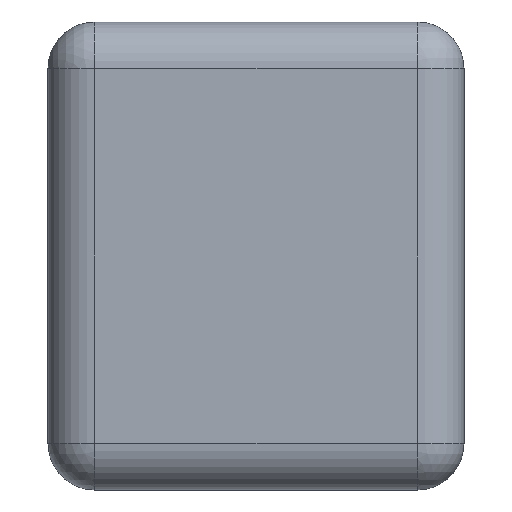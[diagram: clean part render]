
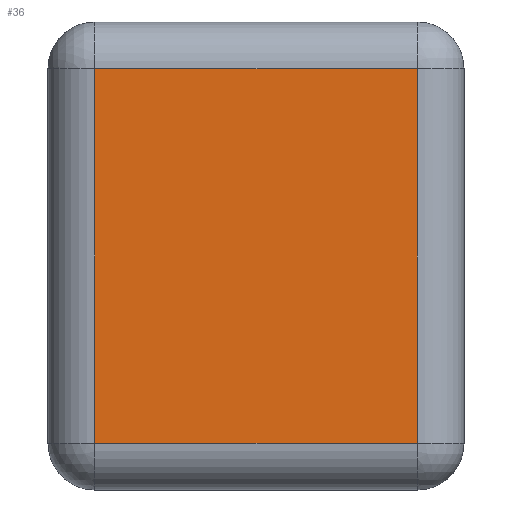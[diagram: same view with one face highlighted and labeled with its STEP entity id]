
A CAD part, left-side view. The second image highlights one B-rep face of the part: STEP entity #36.
In plain terms, the highlighted planar face has unit normal (-1, 0, 0).
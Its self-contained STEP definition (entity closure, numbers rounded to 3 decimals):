
#36 = ADVANCED_FACE('',(#37),#51,.F.);
#37 = FACE_BOUND('',#38,.F.);
#38 = EDGE_LOOP('',(#39,#74,#102,#130));
#39 = ORIENTED_EDGE('',*,*,#40,.F.);
#40 = EDGE_CURVE('',#41,#43,#45,.T.);
#41 = VERTEX_POINT('',#42);
#42 = CARTESIAN_POINT('',(-1.65,-0.62,0.18));
#43 = VERTEX_POINT('',#44);
#44 = CARTESIAN_POINT('',(-1.65,-0.62,1.62));
#45 = SURFACE_CURVE('',#46,(#50,#62),.PCURVE_S1.);
#46 = LINE('',#47,#48);
#47 = CARTESIAN_POINT('',(-1.65,-0.62,0.));
#48 = VECTOR('',#49,1.);
#49 = DIRECTION('',(0.,0.,1.));
#50 = PCURVE('',#51,#56);
#51 = PLANE('',#52);
#52 = AXIS2_PLACEMENT_3D('',#53,#54,#55);
#53 = CARTESIAN_POINT('',(-1.65,-0.8,0.));
#54 = DIRECTION('',(1.,0.,0.));
#55 = DIRECTION('',(0.,0.,1.));
#56 = DEFINITIONAL_REPRESENTATION('',(#57),#61);
#57 = LINE('',#58,#59);
#58 = CARTESIAN_POINT('',(0.,-0.18));
#59 = VECTOR('',#60,1.);
#60 = DIRECTION('',(1.,0.));
#61 = ( GEOMETRIC_REPRESENTATION_CONTEXT(2) 
PARAMETRIC_REPRESENTATION_CONTEXT() REPRESENTATION_CONTEXT('2D SPACE',''
  ) );
#62 = PCURVE('',#63,#68);
#63 = CYLINDRICAL_SURFACE('',#64,0.18);
#64 = AXIS2_PLACEMENT_3D('',#65,#66,#67);
#65 = CARTESIAN_POINT('',(-1.47,-0.62,0.));
#66 = DIRECTION('',(0.,0.,1.));
#67 = DIRECTION('',(-1.,-0.,0.));
#68 = DEFINITIONAL_REPRESENTATION('',(#69),#73);
#69 = LINE('',#70,#71);
#70 = CARTESIAN_POINT('',(0.,0.));
#71 = VECTOR('',#72,1.);
#72 = DIRECTION('',(0.,1.));
#73 = ( GEOMETRIC_REPRESENTATION_CONTEXT(2) 
PARAMETRIC_REPRESENTATION_CONTEXT() REPRESENTATION_CONTEXT('2D SPACE',''
  ) );
#74 = ORIENTED_EDGE('',*,*,#75,.T.);
#75 = EDGE_CURVE('',#41,#76,#78,.T.);
#76 = VERTEX_POINT('',#77);
#77 = CARTESIAN_POINT('',(-1.65,0.62,0.18));
#78 = SURFACE_CURVE('',#79,(#83,#90),.PCURVE_S1.);
#79 = LINE('',#80,#81);
#80 = CARTESIAN_POINT('',(-1.65,-0.8,0.18));
#81 = VECTOR('',#82,1.);
#82 = DIRECTION('',(0.,1.,0.));
#83 = PCURVE('',#51,#84);
#84 = DEFINITIONAL_REPRESENTATION('',(#85),#89);
#85 = LINE('',#86,#87);
#86 = CARTESIAN_POINT('',(0.18,0.));
#87 = VECTOR('',#88,1.);
#88 = DIRECTION('',(0.,-1.));
#89 = ( GEOMETRIC_REPRESENTATION_CONTEXT(2) 
PARAMETRIC_REPRESENTATION_CONTEXT() REPRESENTATION_CONTEXT('2D SPACE',''
  ) );
#90 = PCURVE('',#91,#96);
#91 = CYLINDRICAL_SURFACE('',#92,0.18);
#92 = AXIS2_PLACEMENT_3D('',#93,#94,#95);
#93 = CARTESIAN_POINT('',(-1.47,-0.8,0.18));
#94 = DIRECTION('',(0.,1.,0.));
#95 = DIRECTION('',(-1.,0.,0.));
#96 = DEFINITIONAL_REPRESENTATION('',(#97),#101);
#97 = LINE('',#98,#99);
#98 = CARTESIAN_POINT('',(-0.,0.));
#99 = VECTOR('',#100,1.);
#100 = DIRECTION('',(-0.,1.));
#101 = ( GEOMETRIC_REPRESENTATION_CONTEXT(2) 
PARAMETRIC_REPRESENTATION_CONTEXT() REPRESENTATION_CONTEXT('2D SPACE',''
  ) );
#102 = ORIENTED_EDGE('',*,*,#103,.T.);
#103 = EDGE_CURVE('',#76,#104,#106,.T.);
#104 = VERTEX_POINT('',#105);
#105 = CARTESIAN_POINT('',(-1.65,0.62,1.62));
#106 = SURFACE_CURVE('',#107,(#111,#118),.PCURVE_S1.);
#107 = LINE('',#108,#109);
#108 = CARTESIAN_POINT('',(-1.65,0.62,0.));
#109 = VECTOR('',#110,1.);
#110 = DIRECTION('',(0.,0.,1.));
#111 = PCURVE('',#51,#112);
#112 = DEFINITIONAL_REPRESENTATION('',(#113),#117);
#113 = LINE('',#114,#115);
#114 = CARTESIAN_POINT('',(0.,-1.42));
#115 = VECTOR('',#116,1.);
#116 = DIRECTION('',(1.,0.));
#117 = ( GEOMETRIC_REPRESENTATION_CONTEXT(2) 
PARAMETRIC_REPRESENTATION_CONTEXT() REPRESENTATION_CONTEXT('2D SPACE',''
  ) );
#118 = PCURVE('',#119,#124);
#119 = CYLINDRICAL_SURFACE('',#120,0.18);
#120 = AXIS2_PLACEMENT_3D('',#121,#122,#123);
#121 = CARTESIAN_POINT('',(-1.47,0.62,0.));
#122 = DIRECTION('',(0.,0.,1.));
#123 = DIRECTION('',(-1.,-0.,0.));
#124 = DEFINITIONAL_REPRESENTATION('',(#125),#129);
#125 = LINE('',#126,#127);
#126 = CARTESIAN_POINT('',(-0.,0.));
#127 = VECTOR('',#128,1.);
#128 = DIRECTION('',(-0.,1.));
#129 = ( GEOMETRIC_REPRESENTATION_CONTEXT(2) 
PARAMETRIC_REPRESENTATION_CONTEXT() REPRESENTATION_CONTEXT('2D SPACE',''
  ) );
#130 = ORIENTED_EDGE('',*,*,#131,.F.);
#131 = EDGE_CURVE('',#43,#104,#132,.T.);
#132 = SURFACE_CURVE('',#133,(#137,#144),.PCURVE_S1.);
#133 = LINE('',#134,#135);
#134 = CARTESIAN_POINT('',(-1.65,-0.8,1.62));
#135 = VECTOR('',#136,1.);
#136 = DIRECTION('',(0.,1.,0.));
#137 = PCURVE('',#51,#138);
#138 = DEFINITIONAL_REPRESENTATION('',(#139),#143);
#139 = LINE('',#140,#141);
#140 = CARTESIAN_POINT('',(1.62,0.));
#141 = VECTOR('',#142,1.);
#142 = DIRECTION('',(0.,-1.));
#143 = ( GEOMETRIC_REPRESENTATION_CONTEXT(2) 
PARAMETRIC_REPRESENTATION_CONTEXT() REPRESENTATION_CONTEXT('2D SPACE',''
  ) );
#144 = PCURVE('',#145,#150);
#145 = CYLINDRICAL_SURFACE('',#146,0.18);
#146 = AXIS2_PLACEMENT_3D('',#147,#148,#149);
#147 = CARTESIAN_POINT('',(-1.47,-0.8,1.62));
#148 = DIRECTION('',(0.,1.,0.));
#149 = DIRECTION('',(-1.,0.,0.));
#150 = DEFINITIONAL_REPRESENTATION('',(#151),#155);
#151 = LINE('',#152,#153);
#152 = CARTESIAN_POINT('',(0.,0.));
#153 = VECTOR('',#154,1.);
#154 = DIRECTION('',(0.,1.));
#155 = ( GEOMETRIC_REPRESENTATION_CONTEXT(2) 
PARAMETRIC_REPRESENTATION_CONTEXT() REPRESENTATION_CONTEXT('2D SPACE',''
  ) );
